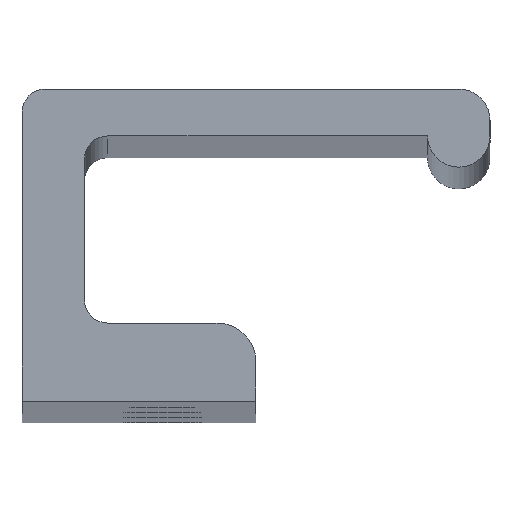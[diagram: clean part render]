
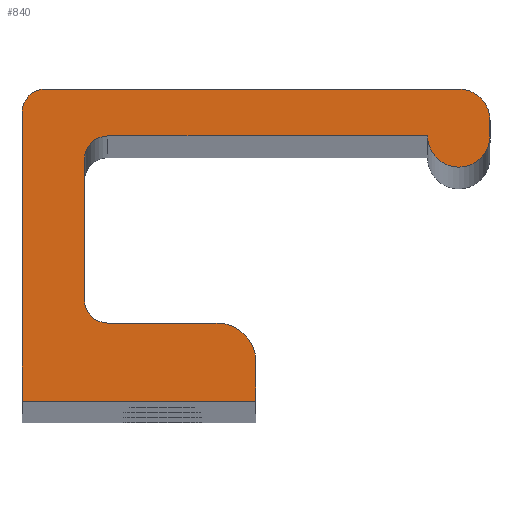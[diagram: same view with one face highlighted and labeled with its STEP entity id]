
A CAD part, top view. The second image highlights one B-rep face of the part: STEP entity #840.
In plain terms, the highlighted planar face has unit normal (0, 0, 1).
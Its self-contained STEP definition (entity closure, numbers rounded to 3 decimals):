
#12 = ORIENTED_EDGE ( 'NONE', *, *, #965, .F. ) ;
#14 = ORIENTED_EDGE ( 'NONE', *, *, #932, .F. ) ;
#61 = LINE ( 'NONE', #62, #63 ) ;
#62 = CARTESIAN_POINT ( 'NONE',  ( -3.5, 4.98, 400. ) ) ;
#63 = VECTOR ( 'NONE', #64, 1000. ) ;
#64 = DIRECTION ( 'NONE',  ( 1., 0., 0. ) ) ;
#74 = CARTESIAN_POINT ( 'NONE',  ( 21., 17.979, 400. ) ) ;
#92 = CARTESIAN_POINT ( 'NONE',  ( -3.5, 16.98, 400. ) ) ;
#98 = CARTESIAN_POINT ( 'NONE',  ( -5., 15.48, 400. ) ) ;
#129 = CARTESIAN_POINT ( 'NONE',  ( -3.5, 4.98, 400. ) ) ;
#133 = ORIENTED_EDGE ( 'NONE', *, *, #428, .F. ) ;
#167 = CARTESIAN_POINT ( 'NONE',  ( -9., -0.02, 400. ) ) ;
#168 = CARTESIAN_POINT ( 'NONE',  ( -7.5, 19.98, 400. ) ) ;
#178 = LINE ( 'NONE', #179, #180 ) ;
#179 = CARTESIAN_POINT ( 'NONE',  ( 17., 16.98, 400. ) ) ;
#180 = VECTOR ( 'NONE', #181, 1000. ) ;
#181 = DIRECTION ( 'NONE',  ( -1., 0., 0. ) ) ;
#195 = CARTESIAN_POINT ( 'NONE',  ( -9., 18.5, 400. ) ) ;
#196 = CIRCLE ( 'NONE', #197, 1.5 ) ;
#197 = AXIS2_PLACEMENT_3D ( 'NONE', #198, #202, #203 ) ;
#198 = CARTESIAN_POINT ( 'NONE',  ( -7.5, 18.48, 400. ) ) ;
#202 = DIRECTION ( 'NONE',  ( 0., 0., -1. ) ) ;
#203 = DIRECTION ( 'NONE',  ( -1., 0., 0. ) ) ;
#233 = CIRCLE ( 'NONE', #234, 1.5 ) ;
#234 = AXIS2_PLACEMENT_3D ( 'NONE', #235, #236, #237 ) ;
#235 = CARTESIAN_POINT ( 'NONE',  ( -3.5, 6.48, 400. ) ) ;
#236 = DIRECTION ( 'NONE',  ( 0., 0., 1. ) ) ;
#237 = DIRECTION ( 'NONE',  ( 1., 0., 0. ) ) ;
#247 = CIRCLE ( 'NONE', #248, 2. ) ;
#248 = AXIS2_PLACEMENT_3D ( 'NONE', #249, #250, #251 ) ;
#249 = CARTESIAN_POINT ( 'NONE',  ( 19., 17.98, 400. ) ) ;
#250 = DIRECTION ( 'NONE',  ( 0., 0., -1. ) ) ;
#251 = DIRECTION ( 'NONE',  ( 1., 0., 0. ) ) ;
#257 = VERTEX_POINT ( 'NONE', #167 ) ;
#269 = CARTESIAN_POINT ( 'NONE',  ( 6., -0.02, 400. ) ) ;
#298 = CIRCLE ( 'NONE', #299, 2.5 ) ;
#299 = AXIS2_PLACEMENT_3D ( 'NONE', #300, #301, #302 ) ;
#300 = CARTESIAN_POINT ( 'NONE',  ( 3.5, 2.48, 400. ) ) ;
#301 = DIRECTION ( 'NONE',  ( 0., 0., -1. ) ) ;
#302 = DIRECTION ( 'NONE',  ( -1., 0., 0. ) ) ;
#304 = CIRCLE ( 'NONE', #305, 2. ) ;
#305 = AXIS2_PLACEMENT_3D ( 'NONE', #306, #307, #310 ) ;
#306 = CARTESIAN_POINT ( 'NONE',  ( 19., 17.98, 400. ) ) ;
#307 = DIRECTION ( 'NONE',  ( 0., 0., -1. ) ) ;
#308 = VERTEX_POINT ( 'NONE', #195 ) ;
#309 = ORIENTED_EDGE ( 'NONE', *, *, #905, .F. ) ;
#310 = DIRECTION ( 'NONE',  ( 1., 0., 0. ) ) ;
#321 = CARTESIAN_POINT ( 'NONE',  ( 17., 16.98, 400. ) ) ;
#328 = LINE ( 'NONE', #329, #330 ) ;
#329 = CARTESIAN_POINT ( 'NONE',  ( 6., -0.02, 400. ) ) ;
#330 = VECTOR ( 'NONE', #331, 1000. ) ;
#331 = DIRECTION ( 'NONE',  ( -1., 0., 0. ) ) ;
#378 = VERTEX_POINT ( 'NONE', #269 ) ;
#397 = CARTESIAN_POINT ( 'NONE',  ( 21., 16.98, 400. ) ) ;
#398 = CARTESIAN_POINT ( 'NONE',  ( 21., 17.98, 400. ) ) ;
#400 = LINE ( 'NONE', #401, #402 ) ;
#401 = CARTESIAN_POINT ( 'NONE',  ( -9., -0.02, 400. ) ) ;
#402 = VECTOR ( 'NONE', #403, 1000. ) ;
#403 = DIRECTION ( 'NONE',  ( 0., 1., 0. ) ) ;
#409 = FACE_OUTER_BOUND ( 'NONE', #819, .T. ) ;
#410 = PLANE ( 'NONE',  #411 ) ;
#411 = AXIS2_PLACEMENT_3D ( 'NONE', #412, #413, #414 ) ;
#412 = CARTESIAN_POINT ( 'NONE',  ( -7.5, 18.48, 400. ) ) ;
#413 = DIRECTION ( 'NONE',  ( 0., 0., -1. ) ) ;
#414 = DIRECTION ( 'NONE',  ( -1., 0., 0. ) ) ;
#421 = LINE ( 'NONE', #422, #423 ) ;
#422 = CARTESIAN_POINT ( 'NONE',  ( 6., 2.5, 400. ) ) ;
#423 = VECTOR ( 'NONE', #424, 1000. ) ;
#424 = DIRECTION ( 'NONE',  ( 0., -1., 0. ) ) ;
#428 = EDGE_CURVE ( 'NONE', #881, #978, #298, .T. ) ;
#462 = CIRCLE ( 'NONE', #463, 2. ) ;
#463 = AXIS2_PLACEMENT_3D ( 'NONE', #464, #465, #466 ) ;
#464 = CARTESIAN_POINT ( 'NONE',  ( 19., 16.98, 400. ) ) ;
#465 = DIRECTION ( 'NONE',  ( 0., 0., -1. ) ) ;
#466 = DIRECTION ( 'NONE',  ( -1., 0., 0. ) ) ;
#467 = CARTESIAN_POINT ( 'NONE',  ( -5., 6.48, 400. ) ) ;
#477 = LINE ( 'NONE', #478, #479 ) ;
#478 = CARTESIAN_POINT ( 'NONE',  ( -7.5, 19.98, 400. ) ) ;
#479 = VECTOR ( 'NONE', #480, 1000. ) ;
#480 = DIRECTION ( 'NONE',  ( 1., 0., 0. ) ) ;
#481 = ORIENTED_EDGE ( 'NONE', *, *, #817, .F. ) ;
#516 = EDGE_CURVE ( 'NONE', #378, #257, #328, .T. ) ;
#522 = LINE ( 'NONE', #523, #524 ) ;
#523 = CARTESIAN_POINT ( 'NONE',  ( 21., 17.979, 400. ) ) ;
#524 = VECTOR ( 'NONE', #525, 1000. ) ;
#525 = DIRECTION ( 'NONE',  ( 0., -1., 0. ) ) ;
#547 = LINE ( 'NONE', #548, #549 ) ;
#548 = CARTESIAN_POINT ( 'NONE',  ( -5., 15.48, 400. ) ) ;
#549 = VECTOR ( 'NONE', #553, 1000. ) ;
#553 = DIRECTION ( 'NONE',  ( 0., -1., 0. ) ) ;
#559 = CARTESIAN_POINT ( 'NONE',  ( 3.5, 4.98, 400. ) ) ;
#596 = CARTESIAN_POINT ( 'NONE',  ( 6., 2.5, 400. ) ) ;
#609 = CARTESIAN_POINT ( 'NONE',  ( 19., 19.98, 400. ) ) ;
#612 = CIRCLE ( 'NONE', #613, 1.5 ) ;
#613 = AXIS2_PLACEMENT_3D ( 'NONE', #614, #615, #616 ) ;
#614 = CARTESIAN_POINT ( 'NONE',  ( -3.5, 15.48, 400. ) ) ;
#615 = DIRECTION ( 'NONE',  ( 0., 0., 1. ) ) ;
#616 = DIRECTION ( 'NONE',  ( 1., 0., 0. ) ) ;
#722 = ORIENTED_EDGE ( 'NONE', *, *, #791, .F. ) ;
#724 = ORIENTED_EDGE ( 'NONE', *, *, #780, .F. ) ;
#728 = VERTEX_POINT ( 'NONE', #609 ) ;
#732 = ORIENTED_EDGE ( 'NONE', *, *, #516, .F. ) ;
#756 = VERTEX_POINT ( 'NONE', #98 ) ;
#780 = EDGE_CURVE ( 'NONE', #308, #925, #196, .T. ) ;
#790 = ORIENTED_EDGE ( 'NONE', *, *, #971, .F. ) ;
#791 = EDGE_CURVE ( 'NONE', #952, #910, #247, .T. ) ;
#817 = EDGE_CURVE ( 'NONE', #728, #952, #304, .T. ) ;
#818 = ORIENTED_EDGE ( 'NONE', *, *, #954, .F. ) ;
#819 = EDGE_LOOP ( 'NONE', ( #724, #818, #732, #964, #133, #309, #14, #899, #824, #916, #872, #790, #722, #481, #12 ) ) ;
#824 = ORIENTED_EDGE ( 'NONE', *, *, #984, .F. ) ;
#840 = ADVANCED_FACE ( 'NONE', ( #409 ), #410, .F. ) ;
#872 = ORIENTED_EDGE ( 'NONE', *, *, #961, .F. ) ;
#881 = VERTEX_POINT ( 'NONE', #559 ) ;
#899 = ORIENTED_EDGE ( 'NONE', *, *, #973, .F. ) ;
#905 = EDGE_CURVE ( 'NONE', #920, #881, #61, .T. ) ;
#910 = VERTEX_POINT ( 'NONE', #74 ) ;
#913 = VERTEX_POINT ( 'NONE', #92 ) ;
#916 = ORIENTED_EDGE ( 'NONE', *, *, #928, .F. ) ;
#920 = VERTEX_POINT ( 'NONE', #129 ) ;
#925 = VERTEX_POINT ( 'NONE', #168 ) ;
#928 = EDGE_CURVE ( 'NONE', #943, #913, #178, .T. ) ;
#932 = EDGE_CURVE ( 'NONE', #962, #920, #233, .T. ) ;
#943 = VERTEX_POINT ( 'NONE', #321 ) ;
#951 = VERTEX_POINT ( 'NONE', #397 ) ;
#952 = VERTEX_POINT ( 'NONE', #398 ) ;
#954 = EDGE_CURVE ( 'NONE', #257, #308, #400, .T. ) ;
#957 = EDGE_CURVE ( 'NONE', #978, #378, #421, .T. ) ;
#961 = EDGE_CURVE ( 'NONE', #951, #943, #462, .T. ) ;
#962 = VERTEX_POINT ( 'NONE', #467 ) ;
#964 = ORIENTED_EDGE ( 'NONE', *, *, #957, .F. ) ;
#965 = EDGE_CURVE ( 'NONE', #925, #728, #477, .T. ) ;
#971 = EDGE_CURVE ( 'NONE', #910, #951, #522, .T. ) ;
#973 = EDGE_CURVE ( 'NONE', #756, #962, #547, .T. ) ;
#978 = VERTEX_POINT ( 'NONE', #596 ) ;
#984 = EDGE_CURVE ( 'NONE', #913, #756, #612, .T. ) ;
